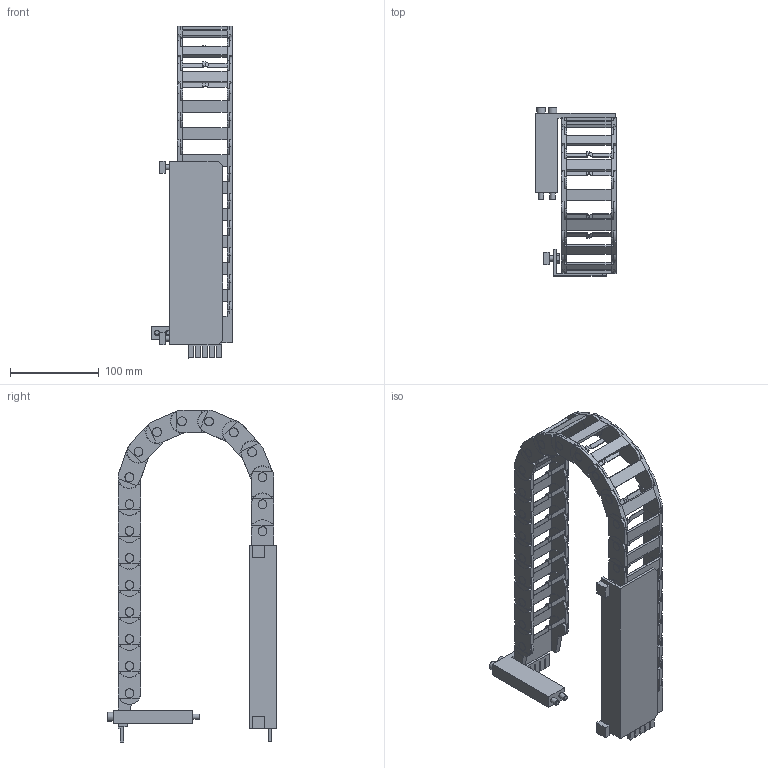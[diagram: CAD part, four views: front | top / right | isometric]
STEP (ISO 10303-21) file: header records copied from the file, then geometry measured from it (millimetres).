
FILE_DESCRIPTION( ( 'STEP AP214' ), '1' );
FILE_NAME( 'U:/Etudes/Top Solid/BIBLIO 3D AVM/STEP/N_ELECTRIQUE/Linéaires/Add_2008/8319335.step', '2008-10-07T13:17:51', ( ' ' ), ( ' ' ), 'XStep 1.0', ' ', ' ' );
FILE_SCHEMA( ( 'automotive_design' ) );
Length unit declared in the file: millimetre
Products named in the file (25): 1; 2; 3; 4; 5; 6; 7; 8; 9; 10; 11; 12; 13; 14; 15; 16; 17; 18; 19; 20; 21; 22; 23; 24; 25
Bounding box: 91 x 190 x 374.21 mm (x, y, z)
Volume: 379622.2 mm3; surface area: 265670.6 mm2
Topology: 25 solids, 27 shells, 1958 faces, 5523 edges, 3681 vertices
Faces by surface type: plane 1481, cylinder 475, cone 2
Full cylindrical faces by diameter (mm): 6 x8, 6.2 x2, 6.5 x2, 10 x2
Entity records: 79353 total; most frequent: CARTESIAN_POINT 11213, ORIENTED_EDGE 10990, DIRECTION 10779, EDGE_CURVE 5495, LINE 4173, VECTOR 4173, VERTEX_POINT 3669, AXIS2_PLACEMENT_3D 3303
